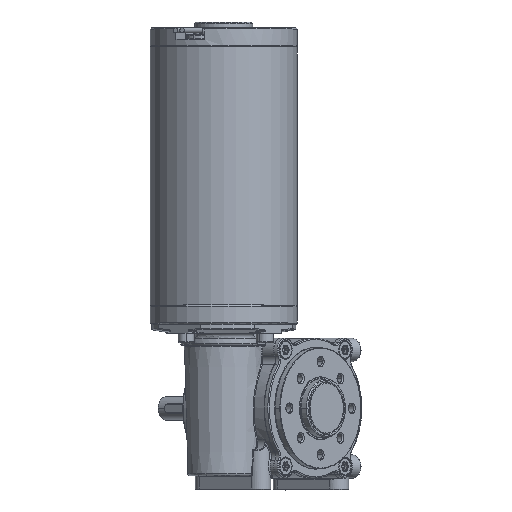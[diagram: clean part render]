
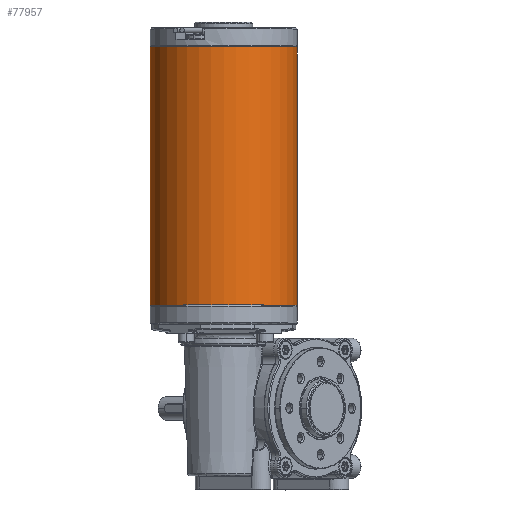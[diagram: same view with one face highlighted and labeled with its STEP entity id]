
A CAD part, top view. The second image highlights one B-rep face of the part: STEP entity #77957.
In plain terms, the highlighted cylindrical face has radius 31.5 mm (diameter 63 mm), a partial arc.
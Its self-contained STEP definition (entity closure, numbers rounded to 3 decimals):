
#18130=DIRECTION('',(0.,1.,0.));
#18131=VECTOR('',#18130,110.7);
#18132=CARTESIAN_POINT('',(-31.5,0.,0.));
#18133=LINE('',#18132,#18131);
#18134=DIRECTION('',(0.,1.,0.));
#18135=VECTOR('',#18134,110.7);
#18136=CARTESIAN_POINT('',(31.5,0.,0.));
#18137=LINE('',#18136,#18135);
#18138=CARTESIAN_POINT('',(0.,0.,
0.));
#18139=DIRECTION('',(0.,1.,0.));
#18140=DIRECTION('',(-1.,0.,0.));
#18141=AXIS2_PLACEMENT_3D('',#18138,#18139,#18140);
#18143=CARTESIAN_POINT('',(0.,110.7,0.));
#18144=DIRECTION('',(0.,1.,0.));
#18145=DIRECTION('',(-1.,0.,0.));
#18146=AXIS2_PLACEMENT_3D('',#18143,#18144,#18145);
#48385=CARTESIAN_POINT('',(-31.5,0.,0.));
#48386=CARTESIAN_POINT('',(-31.5,110.7,0.));
#48387=VERTEX_POINT('',#48385);
#48388=VERTEX_POINT('',#48386);
#48393=CARTESIAN_POINT('',(31.5,0.,0.));
#48394=CARTESIAN_POINT('',(31.5,110.7,0.));
#48395=VERTEX_POINT('',#48393);
#48396=VERTEX_POINT('',#48394);
#77945=CARTESIAN_POINT('',(0.,116.235,0.));
#77946=DIRECTION('',(0.,-1.,0.));
#77947=DIRECTION('',(1.,0.,0.));
#77948=AXIS2_PLACEMENT_3D('',#77945,#77946,#77947);
#77949=CYLINDRICAL_SURFACE('',#77948,31.5);
#77950=ORIENTED_EDGE('',*,*,#77935,.T.);
#77952=ORIENTED_EDGE('',*,*,#77951,.T.);
#77953=ORIENTED_EDGE('',*,*,#77938,.F.);
#77954=ORIENTED_EDGE('',*,*,#77920,.F.);
#77955=EDGE_LOOP('',(#77950,#77952,#77953,#77954));
#77956=FACE_OUTER_BOUND('',#77955,.F.);
#77957=ADVANCED_FACE('',(#77956),#77949,.T.);
#18142=CIRCLE('',#18141,31.5);
#18147=CIRCLE('',#18146,31.5);
#77920=EDGE_CURVE('',#48387,#48395,#18142,.T.);
#77935=EDGE_CURVE('',#48387,#48388,#18133,.T.);
#77938=EDGE_CURVE('',#48395,#48396,#18137,.T.);
#77951=EDGE_CURVE('',#48388,#48396,#18147,.T.);
